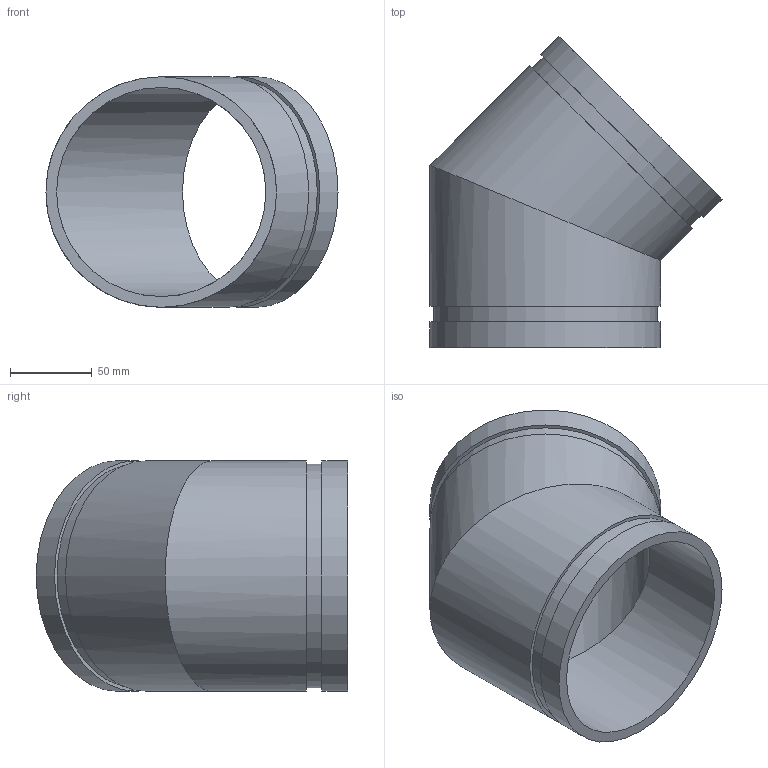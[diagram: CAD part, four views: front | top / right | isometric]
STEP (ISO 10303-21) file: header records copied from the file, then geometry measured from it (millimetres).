
FILE_DESCRIPTION(/* description */ ('VIC 45 DEG FABRICATED ELBOW No 11 SWS (OGS)','CAx-IF Rec.Pracs.---Representation and Presentation of Product Manufacturing Information (PMI)---4.0---2014-10-13'),/* implementation_level */ '2;1');
FILE_NAME(/* name */ 'C:\Users\kkamble\AppData\Roaming\Autodesk\ApplicationPlugins\Back Up\Victaulic_IPS_Elbow 45 Deg_No 11 SWS (OGS)\Victaulic_IPS_Elbow 45 Deg_No 11 SWS (OGS)_5 (125).stp',/* time_stamp */ '2020-09-16T22:14:42+06:00',/* author */ ('cgray'),/* organization */ ('Victaulic'),/* preprocessor_version */ 'ST-DEVELOPER v17.2',/* originating_system */ 'Autodesk Inventor 2019',/* authorisation */ '');
FILE_SCHEMA (('AP242_MANAGED_MODEL_BASED_3D_ENGINEERING_MIM_LF { 1 0 10303 442 1 1 4 }'));
Length unit declared in the file: inch
Products named in the file (1): 11 SWS-05.0
Bounding box: 178.98 x 190.88 x 141.3 mm (x, y, z)
Volume: 440234 mm3; surface area: 148804.4 mm2
Topology: 1 solids, 1 shells, 14 faces, 30 edges, 22 vertices
Faces by surface type: cylinder 8, plane 6
Full cylindrical faces by diameter (mm): 128.194 x2, 137.033 x2, 141.3 x4
Entity records: 554 total; most frequent: DIRECTION 108, CARTESIAN_POINT 84, ORIENTED_EDGE 60, AXIS2_PLACEMENT_3D 50, EDGE_CURVE 30, VERTEX_POINT 22, EDGE_LOOP 20, CIRCLE 16
